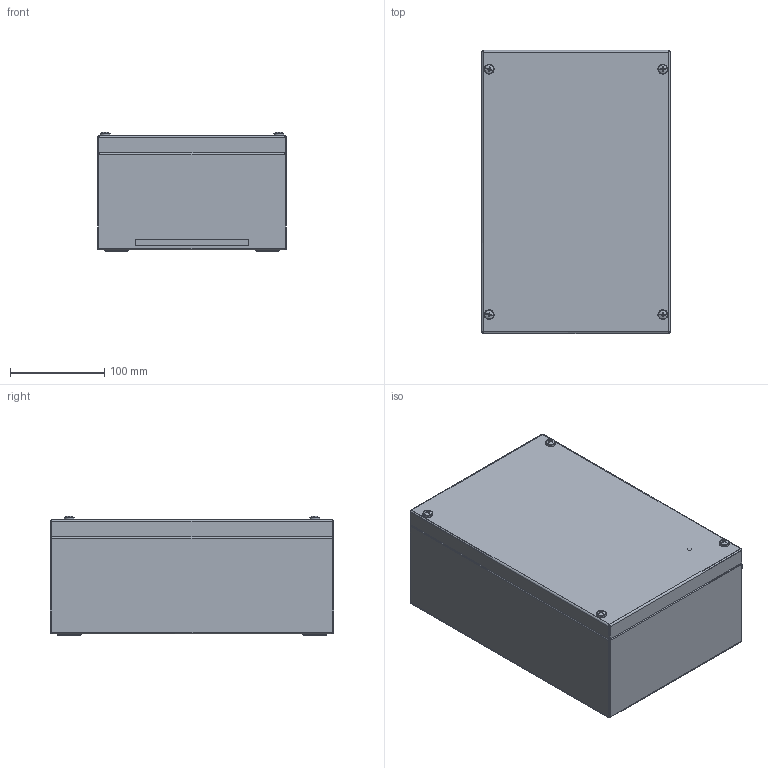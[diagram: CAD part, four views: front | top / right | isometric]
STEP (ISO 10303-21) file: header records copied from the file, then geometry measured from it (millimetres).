
FILE_DESCRIPTION (( 'STEP AP203' ), '1' );
FILE_NAME ('SS JB-300 x 200 x 121-ASSEMBLY.STEP', '2020-03-13T10:45:37', ( '' ), ( '' ), 'SwSTEP 2.0', 'SolidWorks 2018', '' );
FILE_SCHEMA (( 'CONFIG_CONTROL_DESIGN' ));
Length unit declared in the file: millimetre
Products named in the file (7): SS JB-300 x 200 x 121-LID_300 x 200 x 121; SS JB-300 x 200 x 121-BASE_300 X 200 X 121; M5 BLIND NUTSERT; M5X33 LID SCREW; PLASTIC INSERT FOR FABRICATED ENCLOSURE; Dinral Mounting Channel-200; SS JB-300 x 200 x 121-ASSEMBLY
Assembly tree (16 placements, depth 2):
  SS JB-300 x 200 x 121-ASSEMBLY
    SS JB-300 x 200 x 121-BASE_300 X 200 X 121
    Dinral Mounting Channel-200  x2
    SS JB-300 x 200 x 121-LID_300 x 200 x 121
    M5 BLIND NUTSERT  x4
    M5X33 LID SCREW  x4
    PLASTIC INSERT FOR FABRICATED ENCLOSURE  x4
Bounding box: 200 x 300 x 126.81 mm (x, y, z)
Volume: 341713.9 mm3; surface area: 559385.6 mm2
Topology: 16 solids, 16 shells, 723 faces, 1726 edges, 1068 vertices
Faces by surface type: cylinder 314, plane 265, cone 104, bspline 32, sphere 8
Entity records: 14975 total; most frequent: CARTESIAN_POINT 4880, ORIENTED_EDGE 1920, DIRECTION 1771, EDGE_CURVE 960, AXIS2_PLACEMENT_3D 606, VERTEX_POINT 578, LINE 559, VECTOR 559
